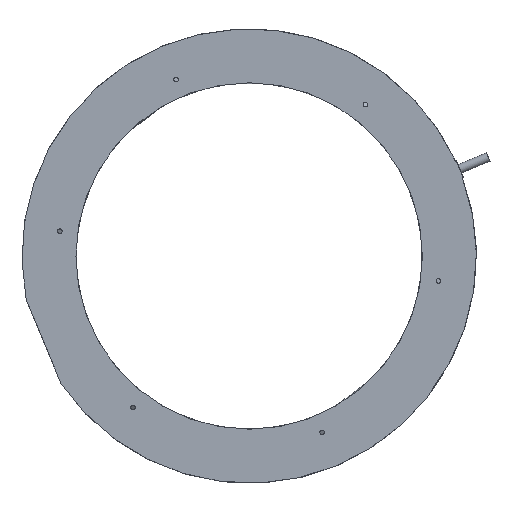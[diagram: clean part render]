
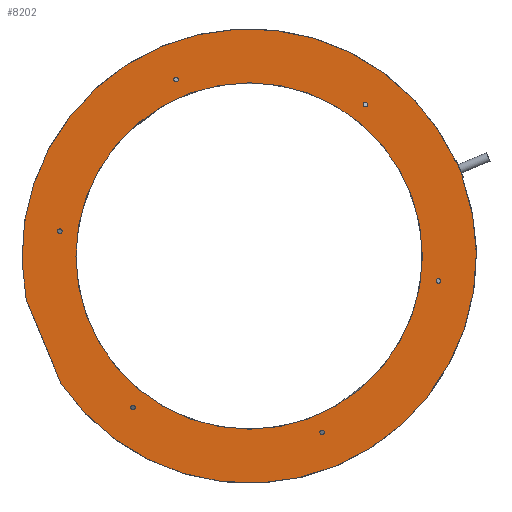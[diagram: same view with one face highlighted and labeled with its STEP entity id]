
A CAD part, top view. The second image highlights one B-rep face of the part: STEP entity #8202.
In plain terms, the highlighted planar face has unit normal (0, 0, 1).
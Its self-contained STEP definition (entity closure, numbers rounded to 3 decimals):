
#2717=CARTESIAN_POINT('',(-104.102,13.705,2.));
#2718=DIRECTION('',(0.,0.,-1.));
#2719=DIRECTION('',(1.,0.,0.));
#2720=AXIS2_PLACEMENT_3D('',#2717,#2718,#2719);
#2722=CARTESIAN_POINT('',(-104.102,13.705,2.));
#2723=DIRECTION('',(0.,0.,-1.));
#2724=DIRECTION('',(-1.,0.,0.));
#2725=AXIS2_PLACEMENT_3D('',#2722,#2723,#2724);
#2727=CARTESIAN_POINT('',(-63.92,-83.302,2.));
#2728=DIRECTION('',(0.,0.,-1.));
#2729=DIRECTION('',(1.,0.,0.));
#2730=AXIS2_PLACEMENT_3D('',#2727,#2728,#2729);
#2732=CARTESIAN_POINT('',(-63.92,-83.302,2.));
#2733=DIRECTION('',(0.,0.,-1.));
#2734=DIRECTION('',(-1.,0.,0.));
#2735=AXIS2_PLACEMENT_3D('',#2732,#2733,#2734);
#2737=CARTESIAN_POINT('',(40.182,-97.007,2.));
#2738=DIRECTION('',(0.,0.,-1.));
#2739=DIRECTION('',(1.,0.,0.));
#2740=AXIS2_PLACEMENT_3D('',#2737,#2738,#2739);
#2742=CARTESIAN_POINT('',(40.182,-97.007,2.));
#2743=DIRECTION('',(0.,0.,-1.));
#2744=DIRECTION('',(-1.,0.,0.));
#2745=AXIS2_PLACEMENT_3D('',#2742,#2743,#2744);
#2747=CARTESIAN_POINT('',(104.102,-13.705,2.));
#2748=DIRECTION('',(0.,0.,-1.));
#2749=DIRECTION('',(1.,0.,0.));
#2750=AXIS2_PLACEMENT_3D('',#2747,#2748,#2749);
#2752=CARTESIAN_POINT('',(104.102,-13.705,2.));
#2753=DIRECTION('',(0.,0.,-1.));
#2754=DIRECTION('',(-1.,0.,0.));
#2755=AXIS2_PLACEMENT_3D('',#2752,#2753,#2754);
#2757=CARTESIAN_POINT('',(63.92,83.302,2.));
#2758=DIRECTION('',(0.,0.,-1.));
#2759=DIRECTION('',(1.,0.,0.));
#2760=AXIS2_PLACEMENT_3D('',#2757,#2758,#2759);
#2762=CARTESIAN_POINT('',(63.92,83.302,2.));
#2763=DIRECTION('',(0.,0.,-1.));
#2764=DIRECTION('',(-1.,0.,0.));
#2765=AXIS2_PLACEMENT_3D('',#2762,#2763,#2764);
#2767=CARTESIAN_POINT('',(-40.182,97.007,2.));
#2768=DIRECTION('',(0.,0.,-1.));
#2769=DIRECTION('',(1.,0.,0.));
#2770=AXIS2_PLACEMENT_3D('',#2767,#2768,#2769);
#2772=CARTESIAN_POINT('',(-40.182,97.007,2.));
#2773=DIRECTION('',(0.,0.,-1.));
#2774=DIRECTION('',(-1.,0.,0.));
#2775=AXIS2_PLACEMENT_3D('',#2772,#2773,#2774);
#2777=CARTESIAN_POINT('',(0.,0.,2.));
#2778=DIRECTION('',(0.,0.,-1.));
#2779=DIRECTION('',(1.,0.,0.));
#2780=AXIS2_PLACEMENT_3D('',#2777,#2778,#2779);
#2782=CARTESIAN_POINT('',(0.,0.,2.));
#2783=DIRECTION('',(0.,0.,-1.));
#2784=DIRECTION('',(-1.,0.,0.));
#2785=AXIS2_PLACEMENT_3D('',#2782,#2783,#2784);
#2787=CARTESIAN_POINT('',(0.,0.,2.));
#2788=DIRECTION('',(0.,0.,1.));
#2789=DIRECTION('',(-0.829,-0.56,0.));
#2790=AXIS2_PLACEMENT_3D('',#2787,#2788,#2789);
#2792=DIRECTION('',(0.383,-0.924,0.));
#2793=VECTOR('',#2792,50.);
#2794=CARTESIAN_POINT('',(-122.719,-23.772,2.));
#2795=LINE('',#2794,#2793);
#2796=CARTESIAN_POINT('',(0.,0.,2.));
#2797=DIRECTION('',(0.,0.,1.));
#2798=DIRECTION('',(0.909,0.418,0.));
#2799=AXIS2_PLACEMENT_3D('',#2796,#2797,#2798);
#3024=CARTESIAN_POINT('',(117.237,43.366,2.));
#3026=DIRECTION('',(-0.924,-0.383,0.));
#3027=VECTOR('',#3026,0.292);
#3028=CARTESIAN_POINT('',(117.507,43.477,2.));
#3029=LINE('',#3028,#3027);
#3049=DIRECTION('',(0.383,-0.924,0.));
#3050=VECTOR('',#3049,9.6);
#3051=CARTESIAN_POINT('',(113.833,52.347,2.));
#3052=LINE('',#3051,#3050);
#3072=CARTESIAN_POINT('',(113.563,52.235,2.));
#3096=DIRECTION('',(0.924,0.383,0.));
#3097=VECTOR('',#3096,0.292);
#3098=CARTESIAN_POINT('',(113.563,52.235,2.));
#3099=LINE('',#3098,#3097);
#3901=CARTESIAN_POINT('',(117.507,43.477,2.));
#3902=VERTEX_POINT('',#3901);
#3903=CARTESIAN_POINT('',(113.833,52.347,2.));
#3904=VERTEX_POINT('',#3903);
#3993=CARTESIAN_POINT('',(95.3,0.,2.));
#3994=CARTESIAN_POINT('',(-95.3,0.,2.));
#3995=VERTEX_POINT('',#3993);
#3996=VERTEX_POINT('',#3994);
#3997=CARTESIAN_POINT('',(-38.932,97.007,2.));
#3998=CARTESIAN_POINT('',(-41.432,97.007,2.));
#3999=VERTEX_POINT('',#3997);
#4000=VERTEX_POINT('',#3998);
#4001=CARTESIAN_POINT('',(65.17,83.302,2.));
#4002=CARTESIAN_POINT('',(62.67,83.302,2.));
#4003=VERTEX_POINT('',#4001);
#4004=VERTEX_POINT('',#4002);
#4005=CARTESIAN_POINT('',(105.352,-13.705,2.));
#4006=CARTESIAN_POINT('',(102.852,-13.705,2.));
#4007=VERTEX_POINT('',#4005);
#4008=VERTEX_POINT('',#4006);
#4009=CARTESIAN_POINT('',(41.432,-97.007,2.));
#4010=CARTESIAN_POINT('',(38.932,-97.007,2.));
#4011=VERTEX_POINT('',#4009);
#4012=VERTEX_POINT('',#4010);
#4013=CARTESIAN_POINT('',(-62.67,-83.302,2.));
#4014=CARTESIAN_POINT('',(-65.17,-83.302,2.));
#4015=VERTEX_POINT('',#4013);
#4016=VERTEX_POINT('',#4014);
#4017=CARTESIAN_POINT('',(-102.852,13.705,2.));
#4018=CARTESIAN_POINT('',(-105.352,13.705,2.));
#4019=VERTEX_POINT('',#4017);
#4020=VERTEX_POINT('',#4018);
#4021=CARTESIAN_POINT('',(-122.719,-23.772,2.));
#4022=CARTESIAN_POINT('',(-103.585,-69.966,2.));
#4023=VERTEX_POINT('',#4021);
#4024=VERTEX_POINT('',#4022);
#4069=VERTEX_POINT('',#3024);
#4071=VERTEX_POINT('',#3072);
#8143=CARTESIAN_POINT('',(115.393,47.797,2.));
#8144=DIRECTION('',(0.,0.,1.));
#8145=DIRECTION('',(0.924,0.383,0.));
#8146=AXIS2_PLACEMENT_3D('',#8143,#8144,#8145);
#8147=PLANE('',#8146);
#8149=ORIENTED_EDGE('',*,*,#8148,.T.);
#8151=ORIENTED_EDGE('',*,*,#8150,.F.);
#8153=ORIENTED_EDGE('',*,*,#8152,.F.);
#8155=ORIENTED_EDGE('',*,*,#8154,.F.);
#8157=ORIENTED_EDGE('',*,*,#8156,.T.);
#8159=ORIENTED_EDGE('',*,*,#8158,.T.);
#8160=EDGE_LOOP('',(#8149,#8151,#8153,#8155,#8157,#8159));
#8161=FACE_OUTER_BOUND('',#8160,.F.);
#8163=ORIENTED_EDGE('',*,*,#8162,.F.);
#8165=ORIENTED_EDGE('',*,*,#8164,.F.);
#8166=EDGE_LOOP('',(#8163,#8165));
#8167=FACE_BOUND('',#8166,.F.);
#8169=ORIENTED_EDGE('',*,*,#8168,.F.);
#8171=ORIENTED_EDGE('',*,*,#8170,.F.);
#8172=EDGE_LOOP('',(#8169,#8171));
#8173=FACE_BOUND('',#8172,.F.);
#8175=ORIENTED_EDGE('',*,*,#8174,.F.);
#8177=ORIENTED_EDGE('',*,*,#8176,.F.);
#8178=EDGE_LOOP('',(#8175,#8177));
#8179=FACE_BOUND('',#8178,.F.);
#8181=ORIENTED_EDGE('',*,*,#8180,.F.);
#8183=ORIENTED_EDGE('',*,*,#8182,.F.);
#8184=EDGE_LOOP('',(#8181,#8183));
#8185=FACE_BOUND('',#8184,.F.);
#8187=ORIENTED_EDGE('',*,*,#8186,.F.);
#8189=ORIENTED_EDGE('',*,*,#8188,.F.);
#8190=EDGE_LOOP('',(#8187,#8189));
#8191=FACE_BOUND('',#8190,.F.);
#8192=ORIENTED_EDGE('',*,*,#8134,.F.);
#8193=ORIENTED_EDGE('',*,*,#8114,.F.);
#8194=EDGE_LOOP('',(#8192,#8193));
#8195=FACE_BOUND('',#8194,.F.);
#8197=ORIENTED_EDGE('',*,*,#8196,.F.);
#8199=ORIENTED_EDGE('',*,*,#8198,.F.);
#8200=EDGE_LOOP('',(#8197,#8199));
#8201=FACE_BOUND('',#8200,.F.);
#8202=ADVANCED_FACE('',(#8161,#8167,#8173,#8179,#8185,#8191,#8195,#8201),#8147,
.T.);
#2721=CIRCLE('',#2720,1.25);
#2726=CIRCLE('',#2725,1.25);
#2731=CIRCLE('',#2730,1.25);
#2736=CIRCLE('',#2735,1.25);
#2741=CIRCLE('',#2740,1.25);
#2746=CIRCLE('',#2745,1.25);
#2751=CIRCLE('',#2750,1.25);
#2756=CIRCLE('',#2755,1.25);
#2761=CIRCLE('',#2760,1.25);
#2766=CIRCLE('',#2765,1.25);
#2771=CIRCLE('',#2770,1.25);
#2776=CIRCLE('',#2775,1.25);
#2781=CIRCLE('',#2780,95.3);
#2786=CIRCLE('',#2785,95.3);
#2791=CIRCLE('',#2790,125.);
#2800=CIRCLE('',#2799,125.);
#8114=EDGE_CURVE('',#3996,#3995,#2786,.T.);
#8134=EDGE_CURVE('',#3995,#3996,#2781,.T.);
#8148=EDGE_CURVE('',#3902,#4069,#3029,.T.);
#8150=EDGE_CURVE('',#4024,#4069,#2791,.T.);
#8152=EDGE_CURVE('',#4023,#4024,#2795,.T.);
#8154=EDGE_CURVE('',#4071,#4023,#2800,.T.);
#8156=EDGE_CURVE('',#4071,#3904,#3099,.T.);
#8158=EDGE_CURVE('',#3904,#3902,#3052,.T.);
#8162=EDGE_CURVE('',#4015,#4016,#2731,.T.);
#8164=EDGE_CURVE('',#4016,#4015,#2736,.T.);
#8168=EDGE_CURVE('',#4011,#4012,#2741,.T.);
#8170=EDGE_CURVE('',#4012,#4011,#2746,.T.);
#8174=EDGE_CURVE('',#4007,#4008,#2751,.T.);
#8176=EDGE_CURVE('',#4008,#4007,#2756,.T.);
#8180=EDGE_CURVE('',#4003,#4004,#2761,.T.);
#8182=EDGE_CURVE('',#4004,#4003,#2766,.T.);
#8186=EDGE_CURVE('',#3999,#4000,#2771,.T.);
#8188=EDGE_CURVE('',#4000,#3999,#2776,.T.);
#8196=EDGE_CURVE('',#4019,#4020,#2721,.T.);
#8198=EDGE_CURVE('',#4020,#4019,#2726,.T.);
